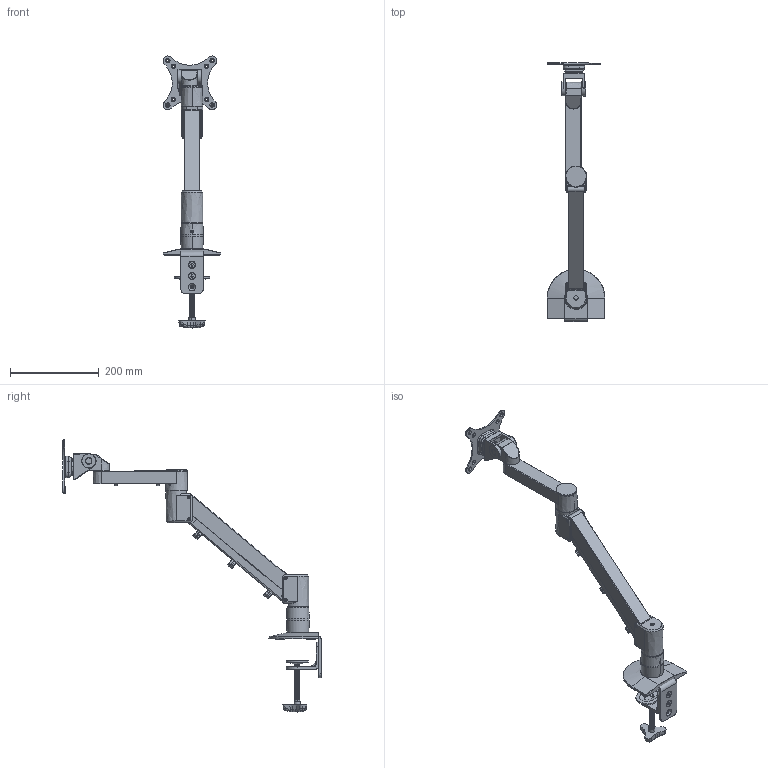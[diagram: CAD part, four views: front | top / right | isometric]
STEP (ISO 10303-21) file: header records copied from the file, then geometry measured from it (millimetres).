
FILE_DESCRIPTION(/* description */ (''),/* implementation_level */ '2;1');
FILE_NAME(/* name */ 'A',/* time_stamp */ '2018-05-21T10:01:23+08:00',/* author */ (''),/* organization */ (''),/* preprocessor_version */ 'ST-DEVELOPER v15',/* originating_system */ '',/* authorisation */ '');
FILE_SCHEMA (('CONFIG_CONTROL_DESIGN'));
Products named in the file (11): Document; A1-CU-01_1; A1-FE-14_1; A1-FE-16_10; A1-PA-07_5; PRT0083; PRT0085; PRT0089; M8-90; PRT0086; PRT0088
Assembly tree (19 placements, depth 2):
  Document
    A1-CU-01_1  x4
    A1-FE-14_1  x4
    A1-FE-16_10
    A1-PA-07_5
    PRT0083  x4
    PRT0085
    PRT0089
    M8-90
    PRT0086
    PRT0088
Bounding box: 130.72 x 584.13 x 613.99 mm (x, y, z)
Volume: 1661375.5 mm3; surface area: 346513.2 mm2
Topology: 42 solids, 45 shells, 4672 faces, 11232 edges, 6651 vertices
Faces by surface type: plane 2688, bspline 1984
Entity records: 162352 total; most frequent: CARTESIAN_POINT 106430, ORIENTED_EDGE 17464, EDGE_CURVE 8750, B_SPLINE_CURVE_WITH_KNOTS 5883, VERTEX_POINT 5135, EDGE_LOOP 3802, ADVANCED_FACE 3697, FACE_OUTER_BOUND 3697
